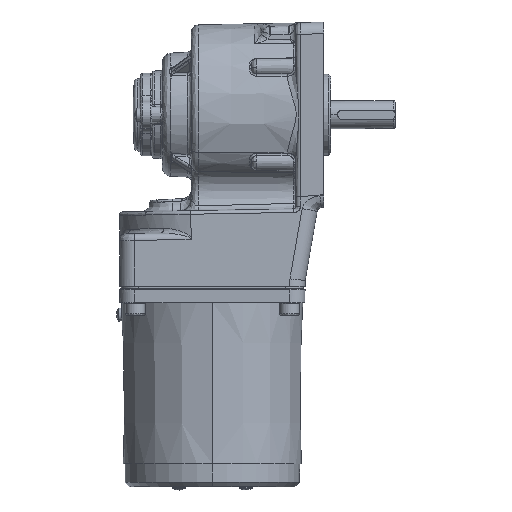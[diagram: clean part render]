
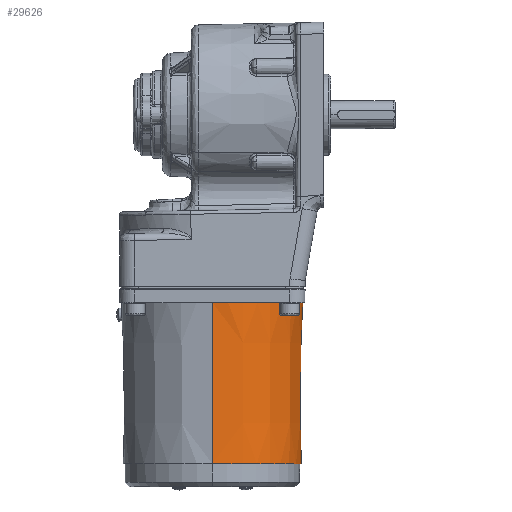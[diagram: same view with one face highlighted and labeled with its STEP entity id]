
A CAD part, front view. The second image highlights one B-rep face of the part: STEP entity #29626.
In plain terms, the highlighted conical face has half-angle 0.5 degrees and reference radius 39 mm.
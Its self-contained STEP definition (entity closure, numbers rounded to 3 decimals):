
#1727 = EDGE_LOOP ( 'NONE', ( #61355, #65518, #49352, #36619 ) ) ;
#9384 = CIRCLE ( 'NONE', #48464, 38.393 ) ;
#10238 = CONICAL_SURFACE ( 'NONE', #54776, 39., 0.009 ) ;
#15036 = LINE ( 'NONE', #46134, #32650 ) ;
#22895 = CARTESIAN_POINT ( 'NONE',  ( 0., 69.5, -38.393 ) ) ;
#23841 = DIRECTION ( 'NONE',  ( 0., 0., -1. ) ) ;
#23949 = CARTESIAN_POINT ( 'NONE',  ( 0., 0., 0. ) ) ;
#24115 = DIRECTION ( 'NONE',  ( 0., -1., 0. ) ) ;
#24121 = VERTEX_POINT ( 'NONE', #22895 ) ;
#29626 = ADVANCED_FACE ( 'NONE', ( #45934 ), #10238, .T. ) ;
#31152 = CARTESIAN_POINT ( 'NONE',  ( 0., 69.5, 38.393 ) ) ;
#32650 = VECTOR ( 'NONE', #46038, 1000. ) ;
#36619 = ORIENTED_EDGE ( 'NONE', *, *, #49948, .F. ) ;
#40534 = DIRECTION ( 'NONE',  ( 0., 0., -1. ) ) ;
#40803 = DIRECTION ( 'NONE',  ( 0., 1., 0. ) ) ;
#40880 = CARTESIAN_POINT ( 'NONE',  ( 0., 0., 0. ) ) ;
#43297 = EDGE_CURVE ( 'NONE', #24121, #57070, #9384, .T. ) ;
#43772 = EDGE_CURVE ( 'NONE', #57070, #56895, #15036, .T. ) ;
#43875 = EDGE_CURVE ( 'NONE', #56895, #47569, #49788, .T. ) ;
#45934 = FACE_OUTER_BOUND ( 'NONE', #1727, .T. ) ;
#46038 = DIRECTION ( 'NONE',  ( 0., -1., 0.009 ) ) ;
#46134 = CARTESIAN_POINT ( 'NONE',  ( 0., 0., 39. ) ) ;
#46797 = CARTESIAN_POINT ( 'NONE',  ( 0., 0., 39. ) ) ;
#47569 = VERTEX_POINT ( 'NONE', #50953 ) ;
#48464 = AXIS2_PLACEMENT_3D ( 'NONE', #64568, #64504, #64307 ) ;
#49352 = ORIENTED_EDGE ( 'NONE', *, *, #43875, .T. ) ;
#49788 = CIRCLE ( 'NONE', #52331, 39. ) ;
#49948 = EDGE_CURVE ( 'NONE', #24121, #47569, #55379, .T. ) ;
#50245 = VECTOR ( 'NONE', #78623, 1000. ) ;
#50953 = CARTESIAN_POINT ( 'NONE',  ( 0., 0., -39. ) ) ;
#52331 = AXIS2_PLACEMENT_3D ( 'NONE', #40880, #40803, #40534 ) ;
#54776 = AXIS2_PLACEMENT_3D ( 'NONE', #23949, #24115, #23841 ) ;
#55379 = LINE ( 'NONE', #72739, #50245 ) ;
#56895 = VERTEX_POINT ( 'NONE', #46797 ) ;
#57070 = VERTEX_POINT ( 'NONE', #31152 ) ;
#61355 = ORIENTED_EDGE ( 'NONE', *, *, #43297, .T. ) ;
#64307 = DIRECTION ( 'NONE',  ( 0., 0., -1. ) ) ;
#64504 = DIRECTION ( 'NONE',  ( 0., -1., 0. ) ) ;
#64568 = CARTESIAN_POINT ( 'NONE',  ( 0., 69.5, 0. ) ) ;
#65518 = ORIENTED_EDGE ( 'NONE', *, *, #43772, .T. ) ;
#72739 = CARTESIAN_POINT ( 'NONE',  ( 0., 0., -39. ) ) ;
#78623 = DIRECTION ( 'NONE',  ( 0., -1., -0.009 ) ) ;
